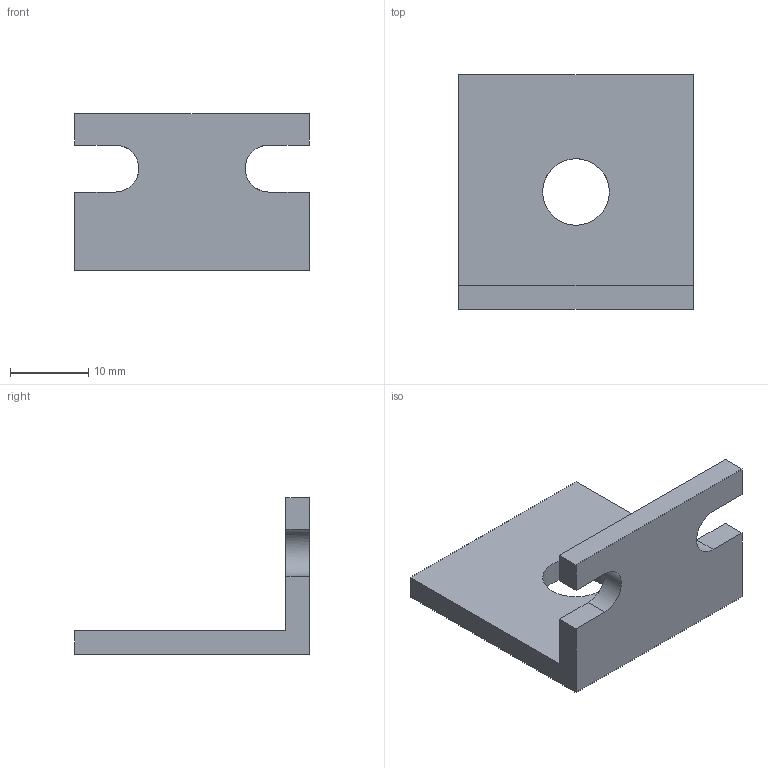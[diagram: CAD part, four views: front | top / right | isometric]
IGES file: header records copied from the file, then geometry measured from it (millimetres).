
Global section: file name: 153-00559_MC 08_0; native system: Autodesk Inventor 2014; preprocessor: unknown; author: ss263; date: 20150113.115222; units: millimetre
Bounding box: 30 x 30 x 20 mm (x, y, z)
Volume: 3787.7 mm3; surface area: 3150.4 mm2
Topology: 1 solids, 1 shells, 17 faces, 45 edges, 30 vertices
Faces by surface type: bspline 17
